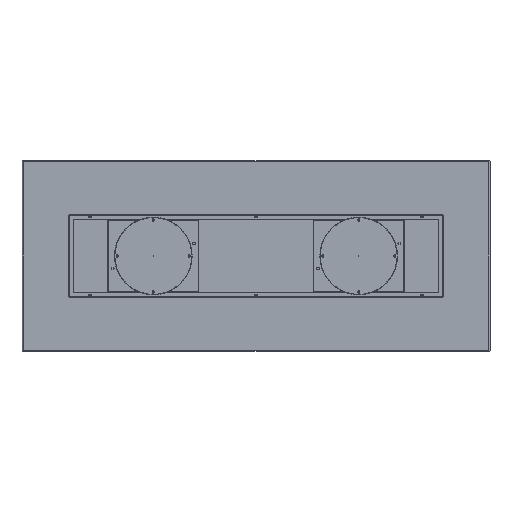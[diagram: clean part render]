
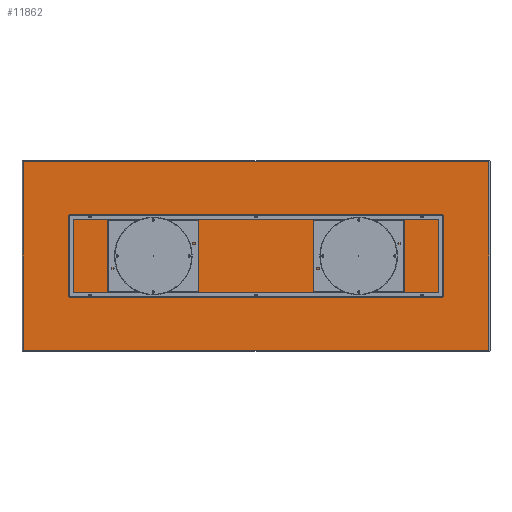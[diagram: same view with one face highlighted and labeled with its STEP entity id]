
A CAD part, front view. The second image highlights one B-rep face of the part: STEP entity #11862.
In plain terms, the highlighted planar face has unit normal (0, -1, 0).
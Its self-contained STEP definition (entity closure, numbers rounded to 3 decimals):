
#1 = EDGE_LOOP ( 'NONE', ( #5669, #12376, #8376, #4782 ) ) ;
#131 = LINE ( 'NONE', #9917, #9236 ) ;
#454 = DIRECTION ( 'NONE',  ( 0., 0., 1. ) ) ;
#971 = CARTESIAN_POINT ( 'NONE',  ( -1587., 0., -642. ) ) ;
#1505 = CARTESIAN_POINT ( 'NONE',  ( 1587., 0., 642. ) ) ;
#2907 = CARTESIAN_POINT ( 'NONE',  ( 1587., 0., -642. ) ) ;
#3026 = VERTEX_POINT ( 'NONE', #8845 ) ;
#3322 = DIRECTION ( 'NONE',  ( 1., 0., 0. ) ) ;
#3909 = FACE_OUTER_BOUND ( 'NONE', #1, .T. ) ;
#4305 = EDGE_CURVE ( 'NONE', #11799, #3026, #9643, .T. ) ;
#4377 = EDGE_CURVE ( 'NONE', #12942, #4627, #131, .T. ) ;
#4627 = VERTEX_POINT ( 'NONE', #2907 ) ;
#4782 = ORIENTED_EDGE ( 'NONE', *, *, #4377, .T. ) ;
#4951 = EDGE_CURVE ( 'NONE', #3026, #12942, #8077, .T. ) ;
#5241 = CARTESIAN_POINT ( 'NONE',  ( 0., 0., 642. ) ) ;
#5669 = ORIENTED_EDGE ( 'NONE', *, *, #8021, .T. ) ;
#7117 = DIRECTION ( 'NONE',  ( 0., 0., 1. ) ) ;
#7531 = LINE ( 'NONE', #11854, #11883 ) ;
#8021 = EDGE_CURVE ( 'NONE', #4627, #11799, #7531, .T. ) ;
#8077 = LINE ( 'NONE', #9143, #11597 ) ;
#8139 = DIRECTION ( 'NONE',  ( 0., 0., -1. ) ) ;
#8376 = ORIENTED_EDGE ( 'NONE', *, *, #4951, .T. ) ;
#8466 = DIRECTION ( 'NONE',  ( 0., 1., 0. ) ) ;
#8845 = CARTESIAN_POINT ( 'NONE',  ( -1587., 0., 642. ) ) ;
#9143 = CARTESIAN_POINT ( 'NONE',  ( -1587., 0., 0. ) ) ;
#9236 = VECTOR ( 'NONE', #3322, 1000. ) ;
#9643 = LINE ( 'NONE', #5241, #11062 ) ;
#9917 = CARTESIAN_POINT ( 'NONE',  ( 0., 0., -642. ) ) ;
#11062 = VECTOR ( 'NONE', #13904, 1000. ) ;
#11449 = PLANE ( 'NONE',  #13021 ) ;
#11597 = VECTOR ( 'NONE', #8139, 1000. ) ;
#11799 = VERTEX_POINT ( 'NONE', #1505 ) ;
#11854 = CARTESIAN_POINT ( 'NONE',  ( 1587., 0., 0. ) ) ;
#11862 = ADVANCED_FACE ( 'NONE', ( #3909 ), #11449, .F. ) ;
#11883 = VECTOR ( 'NONE', #454, 1000. ) ;
#12376 = ORIENTED_EDGE ( 'NONE', *, *, #4305, .T. ) ;
#12798 = CARTESIAN_POINT ( 'NONE',  ( 0., 0., 0. ) ) ;
#12942 = VERTEX_POINT ( 'NONE', #971 ) ;
#13021 = AXIS2_PLACEMENT_3D ( 'NONE', #12798, #8466, #7117 ) ;
#13904 = DIRECTION ( 'NONE',  ( -1., 0., 0. ) ) ;
